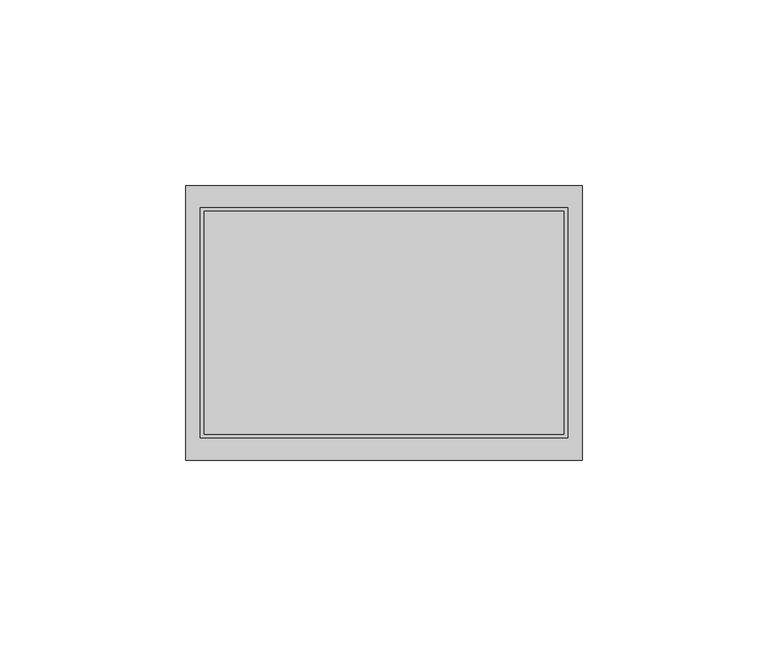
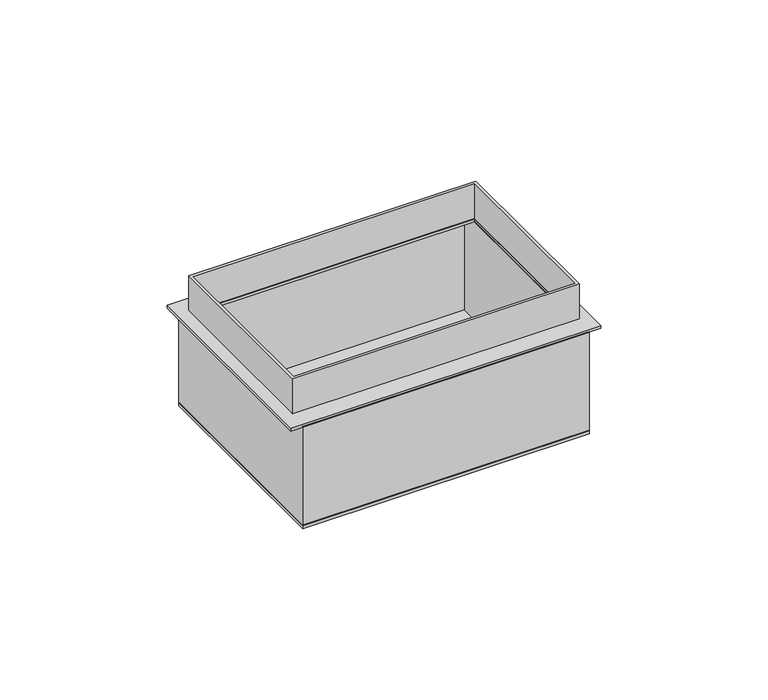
"""IFC4 building model written with IfcOpenShell, lengths in millimetres: proxy geometry, 00-Scatola da incasso : Scatola 3 moduli."""

from ifc_helpers import new_model, si_unit, frame, origin, place, context, project, spatial, polyline, outline, extrude, source, transform, mapped, element, save


def electrical_fixtures_2412b34e(model_context):
    return source(origin(), model_context, "Body", "SweptSolid", [
        extrude(outline(polyline([(49.5, -37.0), (-49.5, -37.0), (-49.5, 37.0), (49.5, 37.0), (49.5, -37.0)])), frame((0.0, 0.0, -51.0), z_axis=(0.0, 0.0, 1.0), x_axis=(1.0, 0.0, 0.0)), (0.0, 0.0, 1.0), 1.0),
        extrude(outline(polyline([(49.5, -37.0), (-49.5, -37.0), (-49.5, 37.0), (49.5, 37.0), (49.5, -37.0)]), holes=[polyline([(-48.5, 36.0), (-48.5, -36.0), (48.5, -36.0), (48.5, 36.0), (-48.5, 36.0)])]), frame((0.0, 0.0, -50.0), z_axis=(0.0, 0.0, 1.0), x_axis=(1.0, 0.0, 0.0)), (0.0, 0.0, 1.0), 36.0),
        extrude(outline(polyline([(53.5, -37.0), (-53.5, -37.0), (-53.5, 37.0), (53.5, 37.0), (53.5, -37.0)]), holes=[polyline([(48.5, -30.0), (48.5, 30.0), (-48.5, 30.0), (-48.5, -30.0), (48.5, -30.0)])]), frame((0.0, 0.0, -14.0), z_axis=(0.0, 0.0, 1.0), x_axis=(1.0, 0.0, 0.0)), (0.0, 0.0, 1.0), 1.0),
        extrude(outline(polyline([(49.5, -31.0), (-49.5, -31.0), (-49.5, 31.0), (49.5, 31.0), (49.5, -31.0)]), holes=[polyline([(-48.5, 30.0), (-48.5, -30.0), (48.5, -30.0), (48.5, 30.0), (-48.5, 30.0)])]), frame((0.0, 0.0, -13.0), z_axis=(0.0, 0.0, 1.0), x_axis=(1.0, 0.0, 0.0)), (0.0, 0.0, 1.0), 13.0),
    ])


if __name__ == "__main__":
    model = new_model("IFC4")
    model_context = context("Model", 3, world=origin())
    ifc_project = project(units=[si_unit("LENGTHUNIT", "METRE", prefix="MILLI")], contexts=[model_context])
    site = spatial("IfcSite", under=ifc_project)
    building = spatial("IfcBuilding", under=site)
    placement = place(None, origin())
    electrical_fixtures_shape = electrical_fixtures_2412b34e(model_context)
    element("IfcBuildingElementProxy", 1, Name="00-Scatola da incasso : Scatola 3 moduli", ObjectType="00-Scatola da incasso : Scatola 3 moduli", at=placement, inside=building, context=model_context, shape_type="MappedRepresentation", body=[
        mapped(electrical_fixtures_shape, transform((0.0, 0.0, 0.0), x_axis=(1.0, 0.0, 0.0), y_axis=(0.0, 1.0, 0.0), z_axis=(0.0, 0.0, 1.0))),
    ])
    save(model, "model.ifc")
